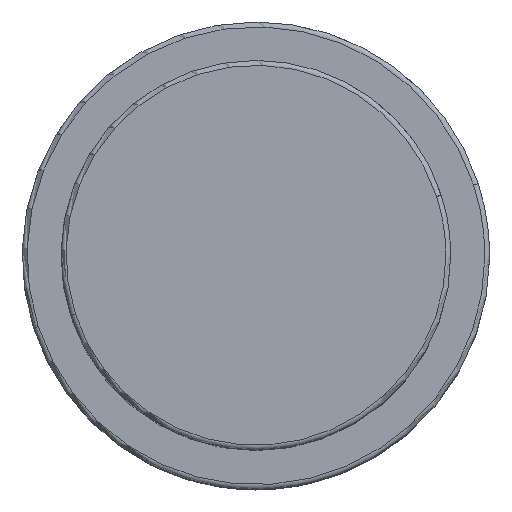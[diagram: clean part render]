
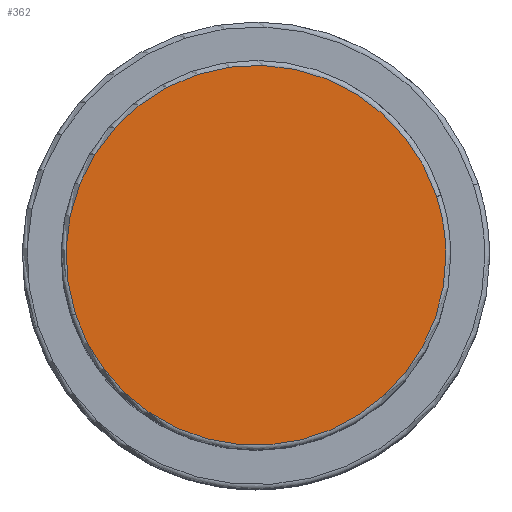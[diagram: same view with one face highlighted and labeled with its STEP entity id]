
A CAD part, top view. The second image highlights one B-rep face of the part: STEP entity #362.
In plain terms, the highlighted planar face has unit normal (0, 0, 1).
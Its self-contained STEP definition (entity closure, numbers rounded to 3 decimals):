
#295=CARTESIAN_POINT('',(18.546,6.026,43.5));
#296=VERTEX_POINT('',#295);
#314=CARTESIAN_POINT('',(-18.546,-6.026,43.5));
#315=VERTEX_POINT('',#314);
#323=CARTESIAN_POINT('',(0.0,0.0,43.5));
#324=DIRECTION('',(0.0,0.0,1.0));
#325=DIRECTION('',(1.0,0.0,0.0));
#326=AXIS2_PLACEMENT_3D('',#323,#324,#325);
#327=CIRCLE('',#326,19.5);
#328=EDGE_CURVE('no 858',#296,#315,#327,.T.);
#338=CARTESIAN_POINT('',(19.5,0.0,43.5));
#339=VERTEX_POINT('',#338);
#340=CARTESIAN_POINT('',(0.0,0.0,43.5));
#341=DIRECTION('',(0.0,0.0,1.0));
#342=DIRECTION('',(1.0,0.0,0.0));
#343=AXIS2_PLACEMENT_3D('',#340,#341,#342);
#344=CIRCLE('',#343,19.5);
#345=EDGE_CURVE('no 867',#339,#296,#344,.T.);
#346=ORIENTED_EDGE('',*,*,#345,.T.);
#347=ORIENTED_EDGE('',*,*,#328,.T.);
#348=CARTESIAN_POINT('',(0.0,0.0,43.5));
#349=DIRECTION('',(0.0,0.0,1.0));
#350=DIRECTION('',(1.0,0.0,0.0));
#351=AXIS2_PLACEMENT_3D('',#348,#349,#350);
#352=CIRCLE('',#351,19.5);
#353=EDGE_CURVE('no 873',#315,#339,#352,.T.);
#354=ORIENTED_EDGE('',*,*,#353,.T.);
#355=EDGE_LOOP('',(#346,#347,#354));
#356=FACE_OUTER_BOUND('',#355,.T.);
#357=CARTESIAN_POINT('',(0.0,0.0,43.5));
#358=DIRECTION('',(0.0,0.0,1.0));
#359=DIRECTION('',(1.0,0.0,0.0));
#360=AXIS2_PLACEMENT_3D('',#357,#358,#359);
#361=PLANE('',#360);
#362=ADVANCED_FACE('no 860',(#356),#361,.T.);
